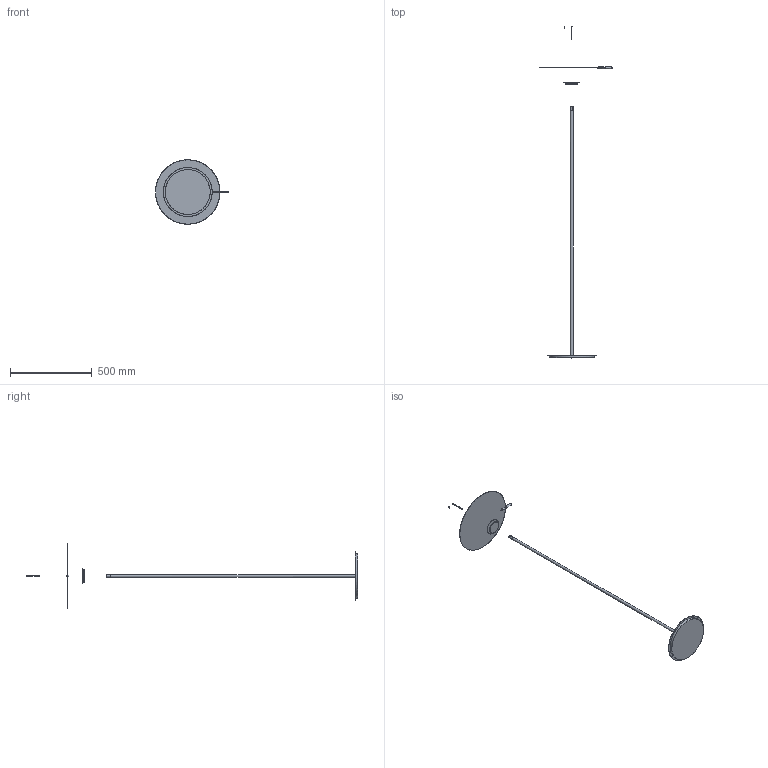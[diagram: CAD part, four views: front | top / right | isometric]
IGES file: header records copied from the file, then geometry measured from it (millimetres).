
Start section: SolidWorks IGES file using analytic representation for surfaces
Global section: file name: N:\- Ingeneria\DISEGNI\PRODOTTI\NEWTON\3d\3d_Newton.IGS; native system: SolidWorks 2016; preprocessor: SolidWorks 2016; author: mgiacomozzi; date: 210308.185151; units: millimetre
Bounding box: 447.5 x 2035.5 x 395 mm (x, y, z)
Surface area: 493515.7 mm2 (no closed solid volume)
Topology: 0 solids, 0 shells, 47 faces, 911 edges, 889 vertices
Faces by surface type: bspline 27, revolution 20
